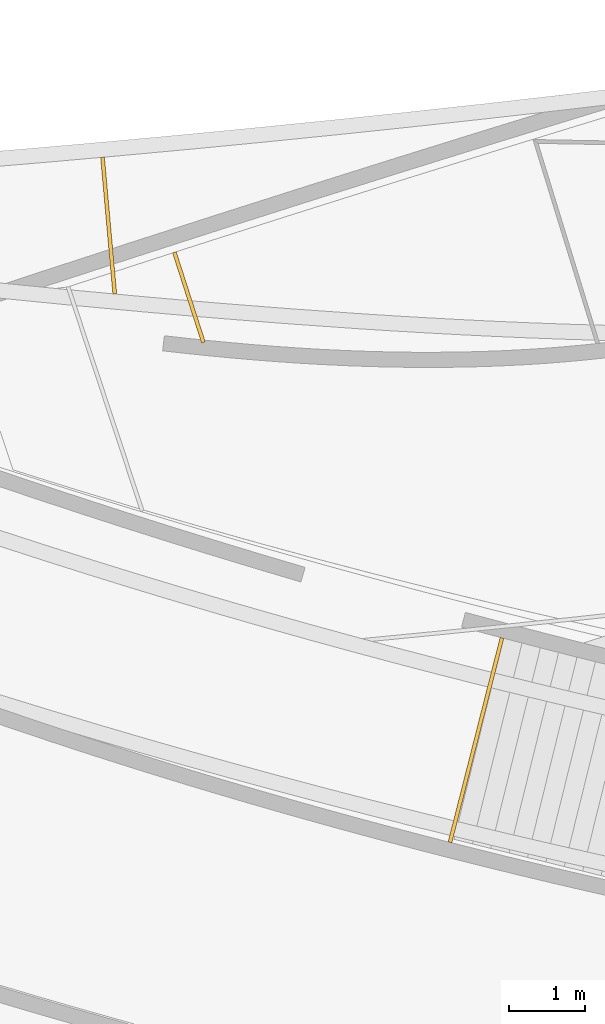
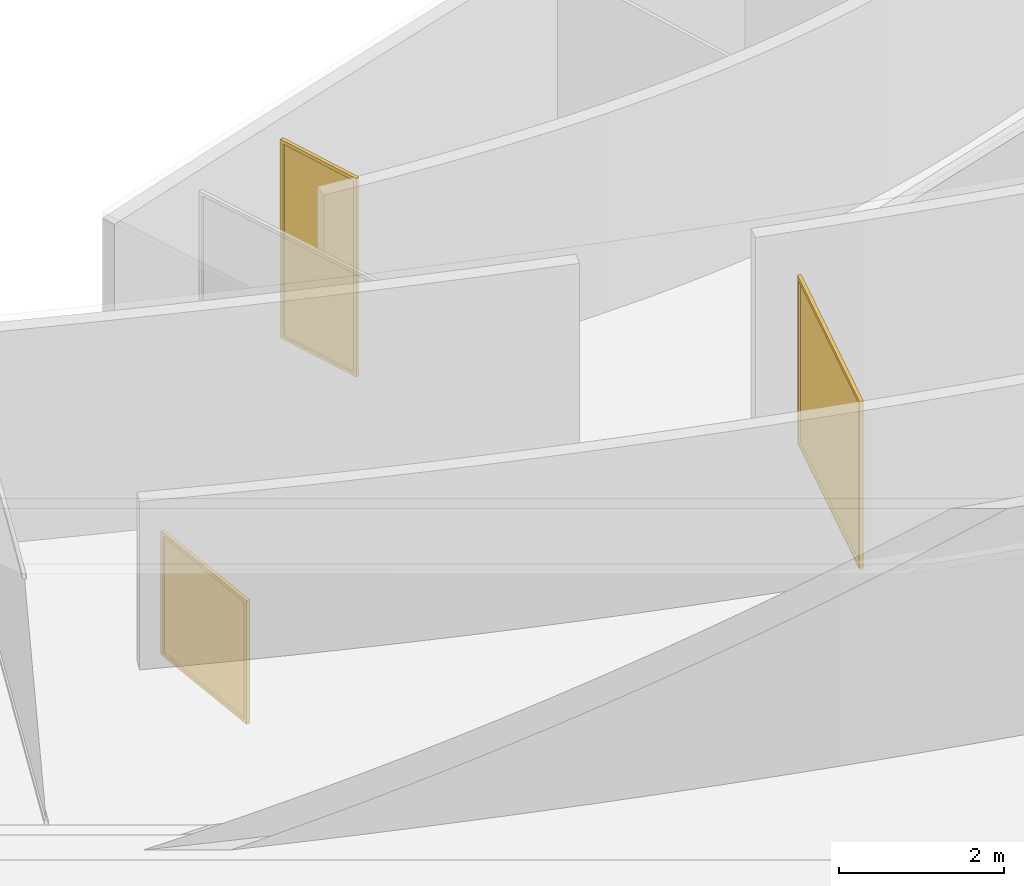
# Not in any storey, part 12 of 14: 3 curtain walls.
"""IFC2X3 model written with IfcOpenShell, lengths in millimetres."""

from ifc_helpers import new_model, entity, si_unit, converted_unit, direction, origin_with_axes, place, context, project, spatial, open_shell, faceted_brep, surface_model, source, transform, mapped, element, save


model = new_model("IFC2X3")

# Units and contexts
model_context = context("Model", 3, precision=1.0, world=origin_with_axes(), true_north=direction((0.0, 1.0)))
ifc_project = project(units=[si_unit("LENGTHUNIT", "METRE", prefix="MILLI"), converted_unit("PLANEANGLEUNIT", "DEGREE", entity("IfcRatioMeasure", 0.017453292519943), si_unit("PLANEANGLEUNIT", "RADIAN"), dimensions=[0, 0, 0, 0, 0, 0, 0])], contexts=[model_context])

# Site
site_placement = place(None, origin_with_axes())
site = spatial("IfcSite", under=ifc_project, at=site_placement, Name="Site", CompositionType="ELEMENT")

# Curtain walls
shared_shape_1 = source(origin_with_axes(), model_context, "Body", "Brep", [
    faceted_brep([(-43648.0390658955, -3457.05761828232, 12750.0), (-43600.453125, -3441.71411132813, 12750.0), (-43608.125, -3417.92041015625, 12750.0), (-43615.796875, -3394.12670898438, 12750.0), (-43663.3828152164, -3409.46997157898, 12750.0), (-43655.7109242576, -3433.26391174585, 12750.0), (-43600.453125, -3441.71411132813, 12750.0), (-43648.0390658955, -3457.05761828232, 12750.0), (-43648.039067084, -3457.05761866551, 11325.0), (-43648.0390652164, -3457.05761806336, 9900.0), (-43600.453125, -3441.71411132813, 9900.0), (-43600.453125, -3441.71411132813, 11325.0), (-43663.3828152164, -3409.46997157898, 12750.0), (-43615.796875, -3394.12670898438, 12750.0), (-43615.796875, -3394.12670898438, 11325.0), (-43615.796875, -3394.12670898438, 9900.0), (-43663.3828145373, -3409.46997136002, 9900.0), (-43663.3828160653, -3409.46997185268, 11325.0), (-43648.0390652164, -3457.05761806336, 9900.0), (-43648.039067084, -3457.05761866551, 11325.0), (-43648.0390658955, -3457.05761828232, 12750.0), (-43655.7109242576, -3433.26391174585, 12750.0), (-43663.3828152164, -3409.46997157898, 12750.0), (-43663.3828160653, -3409.46997185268, 11325.0), (-43663.3828145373, -3409.46997136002, 9900.0), (-43655.7109232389, -3433.26391141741, 9900.0), (-43600.453125, -3441.71411132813, 9900.0), (-43648.0390652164, -3457.05761806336, 9900.0), (-43655.7109232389, -3433.26391141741, 9900.0), (-43663.3828145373, -3409.46997136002, 9900.0), (-43615.796875, -3394.12670898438, 9900.0), (-43608.125, -3417.92041015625, 9900.0), (-43600.453125, -3441.71411132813, 11325.0), (-43600.453125, -3441.71411132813, 9900.0), (-43608.125, -3417.92041015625, 9900.0), (-43615.796875, -3394.12670898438, 9900.0), (-43615.796875, -3394.12670898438, 11325.0), (-43615.796875, -3394.12670898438, 12750.0), (-43608.125, -3417.92041015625, 12750.0), (-43600.453125, -3441.71411132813, 12750.0)], [[[0, 1, 2, 3, 4, 5]], [[6, 7, 8, 9, 10, 11]], [[12, 13, 14, 15, 16, 17]], [[18, 19, 20, 21, 22, 23, 24, 25]], [[26, 27, 28, 29, 30, 31]], [[32, 33, 34, 35, 36, 37, 38, 39]]]),
    faceted_brep([(-43232.171875, -4583.93359375, 12750.0), (-43279.76171875, -4599.27685546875, 12750.0), (-43279.76171875, -4599.27685546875, 11325.0), (-43279.76171875, -4599.27685546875, 9900.0), (-43232.171875, -4583.93359375, 9900.0), (-43232.171875, -4583.93359375, 11325.0), (-43295.10546875, -4551.689453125, 12750.0), (-43247.515625, -4536.345703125, 12750.0), (-43247.515625, -4536.345703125, 11325.0), (-43247.515625, -4536.345703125, 9900.0), (-43295.10546875, -4551.689453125, 9900.0), (-43295.10546875, -4551.689453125, 11325.0), (-43232.171875, -4583.93359375, 12750.0), (-43247.515625, -4536.345703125, 12750.0), (-43295.10546875, -4551.689453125, 12750.0), (-43279.76171875, -4599.27685546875, 12750.0), (-43247.515625, -4536.345703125, 9900.0), (-43232.171875, -4583.93359375, 9900.0), (-43279.76171875, -4599.27685546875, 9900.0), (-43295.10546875, -4551.689453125, 9900.0), (-43232.171875, -4583.93359375, 9900.0), (-43247.515625, -4536.345703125, 9900.0), (-43247.515625, -4536.345703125, 11325.0), (-43247.515625, -4536.345703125, 12750.0), (-43232.171875, -4583.93359375, 12750.0), (-43232.171875, -4583.93359375, 11325.0), (-43295.10546875, -4551.689453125, 9900.0), (-43279.76171875, -4599.27685546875, 9900.0), (-43279.76171875, -4599.27685546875, 11325.0), (-43279.76171875, -4599.27685546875, 12750.0), (-43295.10546875, -4551.689453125, 12750.0), (-43295.10546875, -4551.689453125, 11325.0)], [[[0, 1, 2, 3, 4, 5]], [[6, 7, 8, 9, 10, 11]], [[12, 13, 14, 15]], [[16, 17, 18, 19]], [[20, 21, 22, 23, 24, 25]], [[26, 27, 28, 29, 30, 31]]]),
])
shared_shape_2 = source(origin_with_axes(), model_context, "Body", "SurfaceModel", [
    surface_model("IfcShellBasedSurfaceModel", [(-43423.9843868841, -3989.03003312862, 12800.0), (-43615.7968519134, -3394.12670154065, 12800.0), (-43639.58984375, -3401.79833984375, 12800.0), (-43663.3828125, -3409.46997070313, 12800.0), (-43471.5703125, -4004.37329101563, 12800.0), (-43279.7613216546, -4599.27672743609, 12799.9999999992), (-43255.9648812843, -4591.60486404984, 12800.0000000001), (-43232.1718796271, -4583.93363132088, 12800.0), (-43232.1718795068, -4583.93362226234, 12750.0), (-43232.1718796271, -4583.93363132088, 12800.0), (-43255.9648812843, -4591.60486404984, 12800.0000000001), (-43279.7616970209, -4599.27692286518, 12800.0), (-43279.7616792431, -4599.276978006, 12775.0), (-43279.7616057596, -4599.27685961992, 12749.9999999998), (-43255.9648852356, -4591.60485179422, 12750.0000000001), (-43663.3828125, -3409.46997070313, 12750.0), (-43663.3828125, -3409.46997070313, 12800.0), (-43639.58984375, -3401.79833984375, 12800.0), (-43615.7968519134, -3394.12670154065, 12800.0), (-43615.7968491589, -3394.12670065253, 12750.0), (-43639.58984375, -3401.79833984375, 12750.0), (-43663.3824224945, -3409.46984495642, 12749.9999999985), (-43279.7614153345, -4599.27675764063, 12749.9999999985), (-43279.7613684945, -4599.27674253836, 12775.0000000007), (-43279.7613216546, -4599.27672743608, 12800.0000000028), (-43663.3823288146, -3409.46981475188, 12800.0000000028), (-43663.3823756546, -3409.46982985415, 12775.0000000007), (-43247.5155671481, -4536.34568447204, 12750.0), (-43232.1718795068, -4583.93362226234, 12750.0), (-43255.9648852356, -4591.60485179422, 12750.0000000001), (-43279.7616057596, -4599.27685961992, 12749.9999999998), (-43295.10546875, -4551.689453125, 12750.0), (-43471.5703125, -4004.37329101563, 12750.0), (-43648.0390498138, -3457.05761309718, 12750.0), (-43663.3828125, -3409.46997070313, 12750.0), (-43639.58984375, -3401.79833984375, 12750.0), (-43615.7968491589, -3394.12670065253, 12750.0), (-43600.4532340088, -3441.71414647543, 12750.0), (-43423.9843827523, -3989.03003179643, 12750.0), (-43232.1718796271, -4583.93363132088, 12800.0), (-43232.1718795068, -4583.93362226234, 12750.0), (-43247.5155671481, -4536.34568447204, 12750.0), (-43423.9843827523, -3989.03003179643, 12750.0), (-43600.4532340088, -3441.71414647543, 12750.0), (-43615.7968491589, -3394.12670065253, 12750.0), (-43615.7968519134, -3394.12670154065, 12800.0), (-43423.9843868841, -3989.03003312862, 12800.0)], [open_shell([[[0, 1, 2, 3, 4, 5, 6, 7]], [[8, 9, 10, 11, 12, 13, 14]], [[15, 16, 17, 18, 19, 20]], [[21, 22, 23, 24, 25, 26]], [[27, 28, 29, 30, 31, 32, 33, 34, 35, 36, 37, 38]], [[39, 40, 41, 42, 43, 44, 45, 46]]])]),
    surface_model("IfcShellBasedSurfaceModel", [(-43279.7616408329, -4599.27685740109, 9900.00000000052), (-43279.7617029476, -4599.27690448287, 9850.00000000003), (-43255.9648812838, -4591.60486405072, 9849.99999999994), (-43232.1718831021, -4583.93364596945, 9850.00000000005), (-43232.1718717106, -4583.93363327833, 9900.00000000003), (-43255.9648852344, -4591.60485179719, 9899.99999999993), (-43663.3821432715, -3409.46975492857, 9849.9999999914), (-43279.7611847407, -4599.27668329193, 9849.9999999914), (-43279.7615087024, -4599.27678774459, 9900.00000000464), (-43663.3824672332, -3409.46985938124, 9900.00000000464), (-43232.1718717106, -4583.93363327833, 9900.00000000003), (-43232.1718831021, -4583.93364596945, 9850.00000000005), (-43423.9843960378, -3989.03003608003, 9850.00000000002), (-43615.7968566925, -3394.12670308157, 9849.99999999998), (-43615.7968426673, -3394.12669855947, 9899.99999999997), (-43600.4532244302, -3441.71414338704, 9900.00000000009), (-43423.984375, -3989.03002929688, 9900.0), (-43247.515561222, -4536.34568256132, 9899.99999999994), (-43639.58984375, -3401.79833984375, 9900.0), (-43663.3824672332, -3409.46985938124, 9900.00000000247), (-43648.0390731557, -3457.05762062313, 9899.99999999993), (-43471.5703125, -4004.37329101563, 9900.0), (-43295.10546875, -4551.689453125, 9900.0), (-43279.7616408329, -4599.27685740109, 9900.00000000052), (-43255.9648852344, -4591.60485179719, 9899.99999999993), (-43232.1718717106, -4583.93363327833, 9900.00000000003), (-43247.515561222, -4536.34568256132, 9899.99999999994), (-43423.984375, -3989.03002929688, 9900.0), (-43600.4532244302, -3441.71414338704, 9900.00000000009), (-43615.7968426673, -3394.12669855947, 9899.99999999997), (-43615.7968426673, -3394.12669855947, 9899.99999999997), (-43615.7968566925, -3394.12670308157, 9849.99999999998), (-43639.58984375, -3401.79833984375, 9850.0), (-43663.3828125, -3409.46997070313, 9850.0), (-43663.3828125, -3409.46997070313, 9900.0), (-43639.58984375, -3401.79833984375, 9900.0), (-43639.58984375, -3401.79833984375, 9850.0), (-43615.7968566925, -3394.12670308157, 9849.99999999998), (-43423.9843960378, -3989.03003608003, 9850.00000000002), (-43232.1718831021, -4583.93364596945, 9850.00000000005), (-43255.9648812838, -4591.60486405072, 9849.99999999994), (-43279.7611847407, -4599.27668329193, 9850.00000000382), (-43471.5703125, -4004.37329101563, 9850.0), (-43663.3821432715, -3409.46975492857, 9850.00000000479)], [open_shell([[[0, 1, 2, 3, 4, 5]], [[6, 7, 8, 9]], [[10, 11, 12, 13, 14, 15, 16, 17]], [[18, 19, 20, 21, 22, 23, 24, 25, 26, 27, 28, 29]], [[30, 31, 32, 33, 34, 35]], [[36, 37, 38, 39, 40, 41, 42, 43]]])]),
])
shared_shape_3 = source(origin_with_axes(), model_context, "Body", "MappedRepresentation", [
    mapped(shared_shape_1, transform((0.0, 0.0, 0.0), x_axis=(1.0, 0.0, 0.0), y_axis=(0.0, 1.0, 0.0), z_axis=(0.0, 0.0, 1.0), scale=1.0)),
    mapped(shared_shape_2, transform((0.0, 0.0, 0.0), x_axis=(1.0, 0.0, 0.0), y_axis=(0.0, 1.0, 0.0), z_axis=(0.0, 0.0, 1.0), scale=1.0)),
])
shared_shape_4 = source(origin_with_axes(), model_context, "Body", "SurfaceModel", [
    surface_model("IfcShellBasedSurfaceModel", [(1150.12280273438, 0.0, 2850.0), (0.0, 0.0, 2850.0), (0.0, 0.0, 0.0), (1150.12280273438, 0.0, 0.0)], [open_shell([[[0, 1, 2, 3]]])]),
])
shared_shape_5 = source(origin_with_axes(), model_context, "Body", "MappedRepresentation", [
    mapped(shared_shape_3, transform((0.0, 0.0, 0.0), x_axis=(1.0, 0.0, 0.0), y_axis=(0.0, 1.0, 0.0), z_axis=(0.0, 0.0, 1.0), scale=1.0)),
    mapped(shared_shape_4, transform((-43624.2462927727, -3449.38589444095, 9900.0), x_axis=(0.306868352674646, -0.95175197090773, 0.0), y_axis=(0.95175197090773, 0.306868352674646, 0.0), z_axis=(0.0, 0.0, 1.0), scale=1.0)),
])
curtain_wall_1_placement = place(site_placement, origin_with_axes())
element("IfcCurtainWall", 1, at=curtain_wall_1_placement, inside=site, context=model_context, shape_type="MappedRepresentation", body=[
    mapped(shared_shape_5, transform((0.0, 0.0, 0.0), x_axis=(1.0, 0.0, 0.0), y_axis=(0.0, 1.0, 0.0), z_axis=(0.0, 0.0, 1.0), scale=1.0)),
])
shared_shape_6 = source(origin_with_axes(), model_context, "Body", "SurfaceModel", [
    surface_model("IfcShellBasedSurfaceModel", [(-44559.56640625, -2193.93994140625, 6504.23486328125), (-44609.3671875, -2198.40576171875, 6504.23486328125), (-44609.3671875, -2198.40576171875, 4770.0), (-44559.5665169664, -2193.93995133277, 4769.99999999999), (-44559.5667937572, -2193.93997614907, 5637.11743164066), (-44559.5667383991, -2193.93997118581, 4769.99999999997), (-44564.0316928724, -2144.1396881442, 4769.99999999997), (-44564.0317482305, -2144.13969310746, 5637.11743164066), (-44564.0318035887, -2144.13969807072, 6504.23486328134), (-44559.5668491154, -2193.93998111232, 6504.23486328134), (-44613.83203125, -2148.60546875, 6504.23486328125), (-44564.03125, -2144.1396484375, 6504.23486328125), (-44564.03125, -2144.1396484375, 4770.0), (-44613.832141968, -2148.60547867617, 4769.99999999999), (-44609.3671875, -2198.40576171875, 6504.23486328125), (-44559.5668491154, -2193.93998111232, 6504.23486328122), (-44561.80078125, -2169.03979492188, 6504.23486328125), (-44564.0318035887, -2144.13969807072, 6504.23486328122), (-44613.83203125, -2148.60546875, 6504.23486328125), (-44611.6015625, -2173.50561523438, 6504.23486328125), (-44613.8324187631, -2148.60550349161, 5637.11743164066), (-44613.8323634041, -2148.60549852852, 4769.99999999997), (-44609.3676303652, -2198.40580142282, 4769.99999999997), (-44609.3676857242, -2198.40580638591, 5637.11743164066), (-44609.3677410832, -2198.40581134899, 6504.23486328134), (-44613.8324741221, -2148.60550845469, 6504.23486328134), (-44559.5665169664, -2193.93995133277, 4769.99999999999), (-44609.3671875, -2198.40576171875, 4770.0), (-44611.6015625, -2173.50561523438, 4770.0), (-44613.832141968, -2148.60547867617, 4769.99999999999), (-44564.0316928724, -2144.1396881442, 4769.99999999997), (-44561.80078125, -2169.03979492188, 4770.0)], [open_shell([[[0, 1, 2, 3]], [[4, 5, 6, 7, 8, 9]], [[10, 11, 12, 13]], [[14, 15, 16, 17, 18, 19]], [[20, 21, 22, 23, 24, 25]], [[26, 27, 28, 29, 30, 31]]])]),
    surface_model("IfcShellBasedSurfaceModel", [(-44613.83203125, -2148.60546875, 6554.23486328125), (-44564.03125, -2144.1396484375, 6554.23486328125), (-44564.03125, -2144.1396484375, 6504.23486328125), (-44613.8320101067, -2148.60546685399, 6504.2348632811), (-44451.827265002, -3955.19206155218, 6554.23486327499), (-44402.0274202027, -3950.72632521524, 6554.23486328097), (-44483.03125, -3047.43310546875, 6554.23486328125), (-44564.03125, -2144.1396484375, 6554.23486328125), (-44613.83203125, -2148.60546875, 6554.23486328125), (-44532.828125, -3051.89892578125, 6554.23486328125), (-44451.828125, -3955.19213867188, 6504.23486328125), (-44456.29296875, -3905.39208984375, 6504.23486328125), (-44532.828125, -3051.89892578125, 6504.23486328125), (-44609.3671875, -2198.40576171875, 6504.23486328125), (-44613.8320101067, -2148.60546685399, 6504.2348632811), (-44564.03125, -2144.1396484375, 6504.23486328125), (-44559.5662948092, -2193.93993141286, 6504.23486328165), (-44483.03125, -3047.43310546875, 6504.23486328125), (-44406.4921875, -3900.92626953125, 6504.23486328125), (-44402.0273605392, -3950.72631986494, 6504.23486328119), (-44613.8317873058, -2148.60544687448, 6529.23486328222), (-44613.8319678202, -2148.60546306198, 6504.23486327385), (-44451.8276260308, -3955.19209392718, 6504.23486327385), (-44451.8274455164, -3955.19207773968, 6529.23486328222), (-44451.8272650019, -3955.19206155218, 6554.2348632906), (-44613.8316067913, -2148.60543068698, 6554.2348632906), (-44402.0273605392, -3950.72631986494, 6504.23486328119), (-44564.0319876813, -2144.13971458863, 6504.23486327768), (-44564.0321666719, -2144.13973063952, 6554.23486328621), (-44402.0274202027, -3950.72632521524, 6554.23486328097), (-44402.0274202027, -3950.72632521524, 6554.23486328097), (-44451.828125, -3955.19213867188, 6554.23486328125), (-44451.828125, -3955.19213867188, 6504.23486328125), (-44402.0273605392, -3950.72631986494, 6504.23486328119)], [open_shell([[[0, 1, 2, 3]], [[4, 5, 6, 7, 8, 9]], [[10, 11, 12, 13, 14, 15, 16, 17, 18, 19]], [[20, 21, 22, 23, 24, 25]], [[26, 27, 28, 29]], [[30, 31, 32, 33]]])]),
    surface_model("IfcShellBasedSurfaceModel", [(-44456.29296875, -3905.39208984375, 6504.23486328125), (-44454.05859375, -3930.2919921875, 6504.23486328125), (-44451.828125, -3955.19213867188, 6504.23486328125), (-44402.02734375, -3950.72631835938, 6504.23486328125), (-44404.2578125, -3925.826171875, 6504.23486328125), (-44406.4921875, -3900.92626953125, 6504.23486328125), (-44402.02734375, -3950.72631835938, 6504.23486328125), (-44451.828125, -3955.19213867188, 6504.23486328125), (-44451.828125, -3955.19213867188, 4770.0), (-44402.0272324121, -3950.72630837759, 4769.99999999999), (-44456.2925790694, -3905.3920549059, 5637.11743164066), (-44456.292634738, -3905.39205989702, 4769.99999999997), (-44451.8276796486, -3955.19209874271, 4769.99999999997), (-44451.8276239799, -3955.19209375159, 5637.11743164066), (-44451.8275683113, -3955.19208876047, 6504.23486328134), (-44456.2925234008, -3905.39204991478, 6504.23486328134), (-44402.0269540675, -3950.72628342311, 5637.11743164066), (-44402.0270097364, -3950.72628841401, 4769.99999999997), (-44406.4917421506, -3900.92622960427, 4769.99999999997), (-44406.4916864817, -3900.92622461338, 5637.11743164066), (-44406.4916308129, -3900.92621962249, 6504.23486328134), (-44402.0268983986, -3950.72627843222, 6504.23486328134), (-44406.4921875, -3900.92626953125, 4770.0), (-44404.2578125, -3925.826171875, 4770.0), (-44402.0272324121, -3950.72630837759, 4769.99999999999), (-44451.828125, -3955.19213867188, 4770.0), (-44454.05859375, -3930.2919921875, 4770.0), (-44456.2928574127, -3905.39207986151, 4769.99999999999), (-44456.29296875, -3905.39208984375, 6504.23486328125), (-44406.4921875, -3900.92626953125, 6504.23486328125), (-44406.4921875, -3900.92626953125, 4770.0), (-44456.2928574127, -3905.39207986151, 4769.99999999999)], [open_shell([[[0, 1, 2, 3, 4, 5]], [[6, 7, 8, 9]], [[10, 11, 12, 13, 14, 15]], [[16, 17, 18, 19, 20, 21]], [[22, 23, 24, 25, 26, 27]], [[28, 29, 30, 31]]])]),
    surface_model("IfcShellBasedSurfaceModel", [(-44402.0274551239, -3950.72632834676, 4720.0000000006), (-44402.0273656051, -3950.72632031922, 4770.00000000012), (-44451.828125, -3955.19213867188, 4770.0), (-44451.828125, -3955.19213867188, 4720.0), (-44613.8319521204, -2148.60546165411, 4720.00000000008), (-44613.8319693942, -2148.60546320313, 4770.00000000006), (-44564.03125, -2144.1396484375, 4770.0), (-44564.03125, -2144.1396484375, 4720.0), (-44613.8319693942, -2148.60546320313, 4770.00000000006), (-44613.8319521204, -2148.60546165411, 4720.00000000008), (-44451.8274967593, -3955.19208233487, 4719.99999999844), (-44451.8275226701, -3955.1920846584, 4744.99999999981), (-44451.8275485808, -3955.19208698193, 4770.00000000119), (-44402.0274551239, -3950.72632834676, 4720.0000000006), (-44451.8274967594, -3955.19208233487, 4720.00000000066), (-44532.828125, -3051.89892578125, 4720.0), (-44613.8319521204, -2148.60546165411, 4720.00000000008), (-44564.032214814, -2144.1397349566, 4720.00000000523), (-44483.03125, -3047.43310546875, 4720.0), (-44451.8275485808, -3955.19208698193, 4770.0000000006), (-44402.0273656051, -3950.72632031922, 4770.00000000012), (-44406.4921875, -3900.92626953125, 4770.0), (-44483.03125, -3047.43310546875, 4770.0), (-44559.5662748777, -2193.93992962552, 4769.99999999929), (-44564.0319462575, -2144.13971087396, 4770.00000000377), (-44613.8319693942, -2148.60546320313, 4770.00000000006), (-44609.3671875, -2198.40576171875, 4770.0), (-44532.828125, -3051.89892578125, 4770.0), (-44456.29296875, -3905.39208984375, 4770.0), (-44483.0299463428, -3047.43304163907, 4719.99999999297), (-44564.032214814, -2144.1397349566, 4719.99999999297), (-44564.0320805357, -2144.13972291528, 4744.9999999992), (-44564.0319462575, -2144.13971087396, 4770.00000000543), (-44483.0296777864, -3047.43301755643, 4770.00000000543), (-44402.0273656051, -3950.72632031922, 4770.00000000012), (-44402.0274551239, -3950.72632834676, 4720.0000000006)], [open_shell([[[0, 1, 2, 3]], [[4, 5, 6, 7]], [[8, 9, 10, 11, 12]], [[13, 14, 15, 16, 17, 18]], [[19, 20, 21, 22, 23, 24, 25, 26, 27, 28]], [[29, 30, 31, 32, 33, 34, 35]]])]),
])
shared_shape_7 = source(origin_with_axes(), model_context, "Body", "SurfaceModel", [
    surface_model("IfcShellBasedSurfaceModel", [(1713.83605957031, 0.0, 1734.23498535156), (0.0, 0.0, 1734.23498535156), (0.0, 0.0, 0.0), (1713.83605957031, 0.0, 0.0)], [open_shell([[[0, 1, 2, 3]]])]),
])
shared_shape_8 = source(origin_with_axes(), model_context, "Body", "MappedRepresentation", [
    mapped(shared_shape_6, transform((0.0, 0.0, 0.0), x_axis=(1.0, 0.0, 0.0), y_axis=(0.0, 1.0, 0.0), z_axis=(0.0, 0.0, 1.0), scale=1.0)),
    mapped(shared_shape_7, transform((-44431.3920363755, -3903.15908320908, 4770.0), x_axis=(-0.089317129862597, 0.996003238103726, 0.0), y_axis=(-0.996003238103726, -0.089317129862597, 0.0), z_axis=(0.0, 0.0, 1.0), scale=1.0)),
])
curtain_wall_2_placement = place(site_placement, origin_with_axes())
element("IfcCurtainWall", 2, at=curtain_wall_2_placement, inside=site, context=model_context, shape_type="MappedRepresentation", body=[
    mapped(shared_shape_8, transform((0.0, 0.0, 0.0), x_axis=(1.0, 0.0, 0.0), y_axis=(0.0, 1.0, 0.0), z_axis=(0.0, 0.0, 1.0), scale=1.0)),
])
shared_shape_9 = source(origin_with_axes(), model_context, "Body", "SurfaceModel", [
    surface_model("IfcShellBasedSurfaceModel", [(2688.4912109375, 2.21e-13, 2400.0), (0.0, 1.98e-13, 2400.0), (0.0, -3.19e-13, 0.0), (2688.4912109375, -2.96e-13, 0.0)], [open_shell([[[0, 1, 2, 3]]])]),
])
shared_shape_10 = source(origin_with_axes(), model_context, "Body", "Brep", [
    faceted_brep([(-39299.47265625, -8549.1513671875, 9900.0), (-39293.30859375, -8524.9228515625, 9900.0), (-39287.14453125, -8500.6943359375, 9900.0), (-39287.14453125, -8500.69433593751, 11100.0), (-39287.14453125, -8500.6943359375, 12300.0), (-39293.30859375, -8524.9228515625, 12300.0), (-39299.47265625, -8549.1513671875, 12300.0), (-39299.47265625, -8549.15136718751, 11100.0), (-39335.6015625, -8488.3662109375, 9900.0), (-39287.14453125, -8500.6943359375, 9900.0), (-39293.30859375, -8524.9228515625, 9900.0), (-39299.47265625, -8549.1513671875, 9900.0), (-39347.9296875, -8536.8232421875, 9900.0), (-39341.765625, -8512.5947265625, 9900.0), (-39287.14453125, -8500.6943359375, 12300.0), (-39335.6015625, -8488.3662109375, 12300.0), (-39341.765625, -8512.5947265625, 12300.0), (-39347.9296875, -8536.8232421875, 12300.0), (-39299.47265625, -8549.1513671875, 12300.0), (-39293.30859375, -8524.9228515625, 12300.0), (-39335.6015625, -8488.3662109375, 12300.0), (-39287.14453125, -8500.6943359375, 12300.0), (-39287.14453125, -8500.69433593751, 11100.0), (-39287.14453125, -8500.6943359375, 9900.0), (-39335.6015625, -8488.3662109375, 9900.0), (-39335.6015625, -8488.3662109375, 11100.0), (-39341.765625, -8512.5947265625, 9900.0), (-39347.9296875, -8536.8232421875, 9900.0), (-39347.9296875, -8536.8232421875, 11100.0), (-39347.9296875, -8536.8232421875, 12300.0), (-39341.765625, -8512.5947265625, 12300.0), (-39335.6015625, -8488.3662109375, 12300.0), (-39335.6015625, -8488.3662109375, 11100.0), (-39335.6015625, -8488.3662109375, 9900.0), (-39299.47265625, -8549.1513671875, 12300.0), (-39347.9296875, -8536.8232421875, 12300.0), (-39347.9296875, -8536.8232421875, 11100.0), (-39347.9296875, -8536.8232421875, 9900.0), (-39299.47265625, -8549.1513671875, 9900.0), (-39299.47265625, -8549.15136718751, 11100.0)], [[[0, 1, 2, 3, 4, 5, 6, 7]], [[8, 9, 10, 11, 12, 13]], [[14, 15, 16, 17, 18, 19]], [[20, 21, 22, 23, 24, 25]], [[26, 27, 28, 29, 30, 31, 32, 33]], [[34, 35, 36, 37, 38, 39]]]),
])
shared_shape_11 = source(origin_with_axes(), model_context, "Body", "SurfaceModel", [
    surface_model("IfcShellBasedSurfaceModel", [(-39335.6015625, -8488.3662109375, 12350.0), (-39679.36328125, -9839.5693359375, 12350.0), (-40023.12109375, -11190.7724609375, 12350.0), (-39974.6640625, -11203.1005859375, 12350.0), (-39630.90625, -9851.8974609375, 12350.0), (-39287.1445281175, -8500.69433673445, 12350.0), (-39335.6015625, -8488.3662109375, 12350.0), (-39287.1445281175, -8500.69433673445, 12350.0), (-39287.14453125, -8500.6943359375, 12300.0), (-39335.6016725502, -8488.3661829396, 12299.9999999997), (-39974.6657040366, -11203.1001683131, 12299.9999999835), (-39287.1449310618, -8500.69423422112, 12299.9999999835), (-39287.1445218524, -8500.69433832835, 12350.0000000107), (-39974.6652948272, -11203.1002724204, 12350.0000000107), (-39335.6020285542, -8488.3660923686, 12350.000000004), (-39335.6016725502, -8488.3661829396, 12299.9999999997), (-39347.9297747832, -8536.82321998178, 12299.9999999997), (-39679.3616483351, -9839.56925447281, 12299.999999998), (-40023.1214040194, -11190.7723820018, 12299.999999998), (-40023.1215399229, -11190.7723474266, 12350.000000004), (-39679.3617842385, -9839.5692198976, 12350.000000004), (-39347.9297747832, -8536.82321998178, 12299.9999999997), (-39335.6016725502, -8488.3661829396, 12299.9999999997), (-39287.14453125, -8500.6943359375, 12300.0), (-39299.4727896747, -8549.15133324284, 12300.0000000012), (-39630.90625, -9851.8974609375, 12300.0), (-39962.33984375, -11154.6435546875, 12300.0), (-39974.6640625, -11203.1005859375, 12300.0), (-40023.1211971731, -11190.7724346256, 12299.9999999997), (-40010.79296875, -11142.31640625, 12300.0), (-39679.36328125, -9839.5693359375, 12300.0), (-39974.6640625, -11203.1005859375, 12350.0), (-40023.12109375, -11190.7724609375, 12350.0), (-40023.1211971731, -11190.7724346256, 12299.9999999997), (-39974.6640625, -11203.1005859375, 12300.0)], [open_shell([[[0, 1, 2, 3, 4, 5]], [[6, 7, 8, 9]], [[10, 11, 12, 13]], [[14, 15, 16, 17, 18, 19, 20]], [[21, 22, 23, 24, 25, 26, 27, 28, 29, 30]], [[31, 32, 33, 34]]])]),
    surface_model("IfcShellBasedSurfaceModel", [(-40016.9569845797, -11166.5439571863, 9900.0), (-40010.7929754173, -11142.3164045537, 9900.0), (-39962.33984375, -11154.6435546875, 9900.0), (-39968.50390625, -11178.8720703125, 9900.0), (-39974.6641673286, -11203.1005592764, 9899.99999999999), (-40023.1211026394, -11190.7724586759, 9900.0), (-39974.6640625, -11203.1005859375, 12300.0), (-39968.50390625, -11178.8720703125, 12300.0), (-39962.33984375, -11154.6435546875, 12300.0), (-40010.7929776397, -11142.3164039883, 12300.0), (-40016.9569879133, -11166.5439563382, 12300.0), (-40023.1211048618, -11190.7724581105, 12300.0), (-39974.6641673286, -11203.1005592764, 9899.99999999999), (-39974.6640625, -11203.1005859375, 12300.0), (-40023.1211048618, -11190.7724581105, 12300.0), (-40023.1211087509, -11190.772457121, 11100.0), (-40023.1211026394, -11190.7724586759, 9900.0), (-39974.6644294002, -11203.1004926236, 11100.0), (-39974.6643769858, -11203.1005059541, 9899.99999999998), (-39962.3402630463, -11154.6434480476, 9899.99999999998), (-39962.3403154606, -11154.6434347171, 11100.0), (-39962.3403678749, -11154.6434213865, 12300.0000000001), (-39974.6644818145, -11203.100479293, 12300.0000000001), (-40010.7929754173, -11142.3164045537, 9900.0), (-40016.9569845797, -11166.5439571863, 9900.0), (-40023.1211026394, -11190.7724586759, 9900.0), (-40023.1211087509, -11190.772457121, 11100.0), (-40023.1211048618, -11190.7724581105, 12300.0), (-40016.9569879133, -11166.5439563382, 12300.0), (-40010.7929776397, -11142.3164039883, 12300.0), (-40010.7929804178, -11142.3164032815, 11100.0), (-40010.7929776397, -11142.3164039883, 12300.0), (-39962.33984375, -11154.6435546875, 12300.0), (-39962.33984375, -11154.6435546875, 9900.0), (-40010.7929754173, -11142.3164045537, 9900.0), (-40010.7929804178, -11142.3164032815, 11100.0)], [open_shell([[[0, 1, 2, 3, 4, 5]], [[6, 7, 8, 9, 10, 11]], [[12, 13, 14, 15, 16]], [[17, 18, 19, 20, 21, 22]], [[23, 24, 25, 26, 27, 28, 29, 30]], [[31, 32, 33, 34, 35]]])]),
    surface_model("IfcShellBasedSurfaceModel", [(-39335.6020369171, -8488.366090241, 9874.99999999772), (-39335.6022124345, -8488.36604558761, 9849.99999999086), (-39679.3619395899, -9839.56918037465, 9849.99999999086), (-40023.1216667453, -11190.7723151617, 9849.99999999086), (-40023.121491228, -11190.7723598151, 9874.99999999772), (-40023.1213157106, -11190.7724044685, 9900.00000000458), (-39679.3615885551, -9839.56926968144, 9900.00000000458), (-39347.9297586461, -8536.82322408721, 9900.00000000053), (-39335.6016621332, -8488.3661855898, 9900.00000000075), (-39974.6652202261, -11203.1002913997, 9849.99999998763), (-39287.144570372, -8500.69432598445, 9849.99999998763), (-39287.1450725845, -8500.69419821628, 9900.00000002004), (-39974.6657224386, -11203.1001636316, 9900.00000002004), (-39974.6640625, -11203.1005859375, 9850.0), (-39974.6640625, -11203.1005859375, 9900.0), (-40023.1211677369, -11190.7724421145, 9900.00000000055), (-40023.12109375, -11190.7724609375, 9850.0), (-39335.6015625, -8488.3662109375, 9850.0), (-39287.1445442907, -8500.69433261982, 9849.99999999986), (-39630.90625, -9851.8974609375, 9850.0), (-39974.6640625, -11203.1005859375, 9850.0), (-40023.12109375, -11190.7724609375, 9850.0), (-39679.36328125, -9839.5693359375, 9850.0), (-39287.1450725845, -8500.69419821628, 9899.99999999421), (-39335.6016621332, -8488.3661855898, 9900.00000000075), (-39347.9297586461, -8536.82322408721, 9900.00000000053), (-39679.36328125, -9839.5693359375, 9900.0), (-40010.79296875, -11142.31640625, 9900.0), (-40023.1211677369, -11190.7724421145, 9900.00000000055), (-39974.6640625, -11203.1005859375, 9900.0), (-39962.33984375, -11154.6435546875, 9900.0), (-39630.90625, -9851.8974609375, 9900.0), (-39299.47265625, -8549.1513671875, 9900.0), (-39335.6015625, -8488.3662109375, 9850.0), (-39335.6016621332, -8488.3661855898, 9900.00000000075), (-39287.14453125, -8500.6943359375, 9900.0), (-39287.1445442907, -8500.69433261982, 9849.99999999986)], [open_shell([[[0, 1, 2, 3, 4, 5, 6, 7, 8]], [[9, 10, 11, 12]], [[13, 14, 15, 16]], [[17, 18, 19, 20, 21, 22]], [[23, 24, 25, 26, 27, 28, 29, 30, 31, 32]], [[33, 34, 35, 36]]])]),
])
shared_shape_12 = source(origin_with_axes(), model_context, "Body", "MappedRepresentation", [
    mapped(shared_shape_10, transform((0.0, 0.0, 0.0), x_axis=(1.0, 0.0, 0.0), y_axis=(0.0, 1.0, 0.0), z_axis=(0.0, 0.0, 1.0), scale=1.0)),
    mapped(shared_shape_11, transform((0.0, 0.0, 0.0), x_axis=(1.0, 0.0, 0.0), y_axis=(0.0, 1.0, 0.0), z_axis=(0.0, 0.0, 1.0), scale=1.0)),
])
shared_shape_13 = source(origin_with_axes(), model_context, "Body", "MappedRepresentation", [
    mapped(shared_shape_9, transform((-39323.7009618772, -8542.98698521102, 9900.0), x_axis=(-0.246556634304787, -0.969128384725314, 0.0), y_axis=(0.969128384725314, -0.246556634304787, 0.0), z_axis=(0.0, 0.0, 1.0), scale=1.0)),
    mapped(shared_shape_12, transform((0.0, 0.0, 0.0), x_axis=(1.0, 0.0, 0.0), y_axis=(0.0, 1.0, 0.0), z_axis=(0.0, 0.0, 1.0), scale=1.0)),
])
curtain_wall_3_placement = place(site_placement, origin_with_axes())
element("IfcCurtainWall", 3, at=curtain_wall_3_placement, inside=site, context=model_context, shape_type="MappedRepresentation", body=[
    mapped(shared_shape_13, transform((0.0, 0.0, 0.0), x_axis=(1.0, 0.0, 0.0), y_axis=(0.0, 1.0, 0.0), z_axis=(0.0, 0.0, 1.0), scale=1.0)),
])

save(model, "model.ifc")
